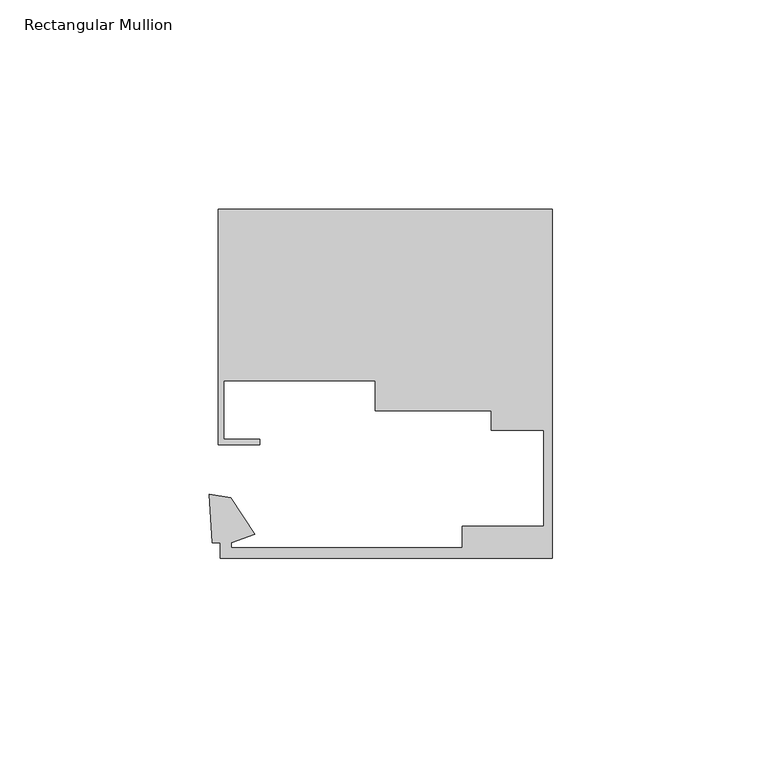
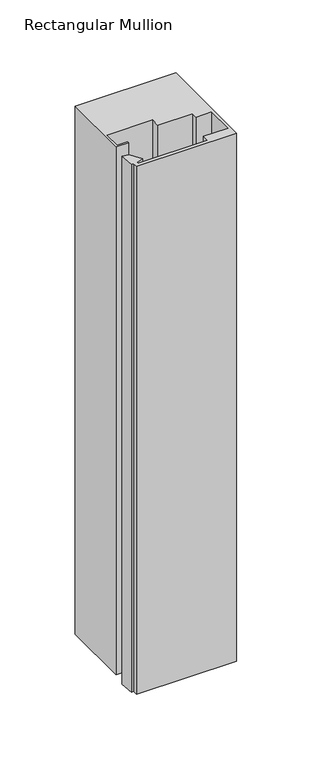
"""IFC4 building model written with IfcOpenShell, lengths in millimetres: member geometry, Rectangular Mullion : Danpal_NM_End-Mullion_B1."""

from ifc_helpers import new_model, si_unit, frame, origin, place, context, project, spatial, polyline, outline, extrude, source, transform, mapped, element, save


def rectangular_mullion_1778ee46(model_context):
    return source(origin(), model_context, "Body", "SweptSolid", [
        extrude(outline(polyline([(0.0, 68.4940825), (0.0, -14.8051514), (-79.3474874, -14.8003189), (-79.3474874, -11.1413992), (-81.1597999, -11.1413992), (-81.8779002, 0.484903), (-76.7540801, -0.319325), (-71.0577359, -9.0180613), (-76.6478166, -11.1168176), (-76.6478166, -12.3181946), (-21.5478166, -12.3181946), (-21.5478166, -7.1181946), (-2.0000001, -7.1181946), (-2.0000001, 15.7940824), (-14.6000003, 15.7940824), (-14.6000003, 20.3492381), (-42.2684147, 20.3894746), (-42.2578709, 27.6399085), (-78.4582695, 27.6399085), (-78.4582695, 13.5916994), (-69.8282946, 13.5916994), (-69.8282946, 12.280939), (-79.7784606, 12.280939), (-79.7784606, 68.4940825), (0.0, 68.4940825)])), frame((0.0, 0.0, -442.658957), z_axis=(0.0, 0.0, 1.0), x_axis=(1.0, 0.0, 0.0)), (0.0, 0.0, 1.0), 442.658957),
    ])


if __name__ == "__main__":
    model = new_model("IFC4")
    model_context = context("Model", 3, world=origin())
    ifc_project = project(units=[si_unit("LENGTHUNIT", "METRE", prefix="MILLI")], contexts=[model_context])
    site = spatial("IfcSite", under=ifc_project)
    building = spatial("IfcBuilding", under=site)
    placement = place(None, origin())
    rectangular_mullion_shape = rectangular_mullion_1778ee46(model_context)
    element("IfcMember", 1, ObjectType="Rectangular Mullion : Danpal_NM_End-Mullion_B1", at=placement, inside=building, context=model_context, shape_type="MappedRepresentation", body=[
        mapped(rectangular_mullion_shape, transform((0.0, 0.0, 0.0), x_axis=(1.0, 0.0, 0.0), y_axis=(0.0, 1.0, 0.0), z_axis=(0.0, 0.0, 1.0))),
    ])
    save(model, "model.ifc")
